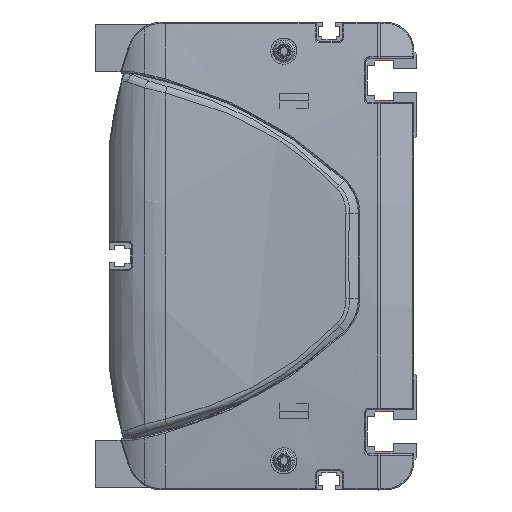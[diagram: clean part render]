
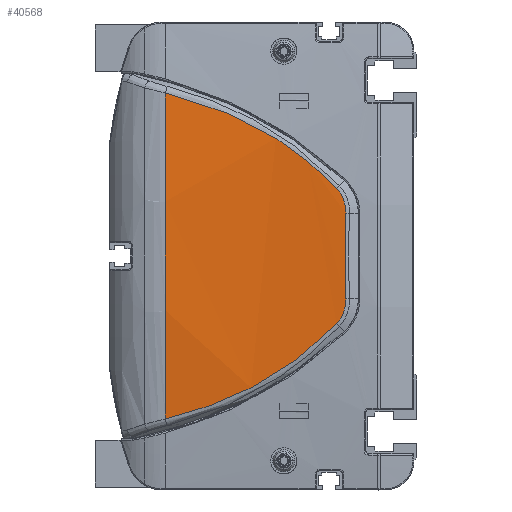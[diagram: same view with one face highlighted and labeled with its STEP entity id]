
A CAD part, left-side view. The second image highlights one B-rep face of the part: STEP entity #40568.
In plain terms, the highlighted cylindrical face has radius 600 mm (diameter 1200 mm), a partial arc.
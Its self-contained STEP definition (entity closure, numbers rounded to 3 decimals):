
#35399=CARTESIAN_POINT('',(-12.406,86.,
55.736));
#35400=CARTESIAN_POINT('',(-12.529,80.495,
54.41));
#35401=CARTESIAN_POINT('',(-12.828,69.636,
51.114));
#35402=CARTESIAN_POINT('',(-13.389,54.079,
44.179));
#35403=CARTESIAN_POINT('',(-14.01,39.709,
34.979));
#35404=CARTESIAN_POINT('',(-14.395,31.353,
27.243));
#35405=CARTESIAN_POINT('',(-14.555,27.451,
23.113));
#35407=CARTESIAN_POINT('',(-14.555,27.451,
23.113));
#35408=CARTESIAN_POINT('',(-14.598,26.394,
21.994));
#35409=CARTESIAN_POINT('',(-14.695,24.746,
19.315));
#35410=CARTESIAN_POINT('',(-14.783,24.276,
16.208));
#35411=CARTESIAN_POINT('',(-14.821,24.351,
14.67));
#35413=CARTESIAN_POINT('',(-14.821,24.351,
14.67));
#35414=CARTESIAN_POINT('',(-14.9,24.51,
11.413));
#35415=CARTESIAN_POINT('',(-15.007,24.721,
4.895));
#35416=CARTESIAN_POINT('',(-15.007,24.721,
-4.895));
#35417=CARTESIAN_POINT('',(-14.9,24.51,
-11.413));
#35418=CARTESIAN_POINT('',(-14.821,24.351,
-14.67));
#35420=CARTESIAN_POINT('',(-14.821,24.351,
-14.67));
#35421=CARTESIAN_POINT('',(-14.783,24.276,
-16.208));
#35422=CARTESIAN_POINT('',(-14.695,24.746,
-19.315));
#35423=CARTESIAN_POINT('',(-14.598,26.394,
-21.995));
#35424=CARTESIAN_POINT('',(-14.555,27.451,
-23.113));
#35426=CARTESIAN_POINT('',(-14.555,27.451,
-23.113));
#35427=CARTESIAN_POINT('',(-14.395,31.353,
-27.243));
#35428=CARTESIAN_POINT('',(-14.01,39.709,
-34.979));
#35429=CARTESIAN_POINT('',(-13.389,54.079,
-44.179));
#35430=CARTESIAN_POINT('',(-12.828,69.636,
-51.114));
#35431=CARTESIAN_POINT('',(-12.529,80.495,
-54.41));
#35432=CARTESIAN_POINT('',(-12.406,86.,
-55.736));
#35434=CARTESIAN_POINT('',(585.,86.,0.));
#35435=DIRECTION('',(0.,1.,0.));
#35436=DIRECTION('',(-0.996,0.,-0.093));
#35437=AXIS2_PLACEMENT_3D('',#35434,#35435,#35436);
#35450=CARTESIAN_POINT('',(-12.406,86.,
55.736));
#35974=VERTEX_POINT('',#35450);
#35975=CARTESIAN_POINT('',(-12.406,86.,
-55.736));
#35976=VERTEX_POINT('',#35975);
#36028=VERTEX_POINT('',#35405);
#36029=VERTEX_POINT('',#35411);
#36030=VERTEX_POINT('',#35418);
#36031=VERTEX_POINT('',#35424);
#40550=CARTESIAN_POINT('',(585.,87.45,0.));
#40551=DIRECTION('',(0.,-1.,0.));
#40552=DIRECTION('',(0.,0.,-1.));
#40553=AXIS2_PLACEMENT_3D('',#40550,#40551,#40552);
#40554=CYLINDRICAL_SURFACE('',#40553,600.);
#40556=ORIENTED_EDGE('',*,*,#40555,.T.);
#40558=ORIENTED_EDGE('',*,*,#40557,.T.);
#40559=ORIENTED_EDGE('',*,*,#40540,.T.);
#40561=ORIENTED_EDGE('',*,*,#40560,.T.);
#40563=ORIENTED_EDGE('',*,*,#40562,.T.);
#40565=ORIENTED_EDGE('',*,*,#40564,.T.);
#40566=EDGE_LOOP('',(#40556,#40558,#40559,#40561,#40563,#40565));
#40567=FACE_OUTER_BOUND('',#40566,.F.);
#40568=ADVANCED_FACE('',(#40567),#40554,.T.);
#35406=B_SPLINE_CURVE_WITH_KNOTS('',3,(#35399,#35400,#35401,#35402,#35403,
#35404,#35405),.UNSPECIFIED.,.F.,.F.,(4,1,1,1,4),(0.,0.25,0.5,0.75,
1.),.UNSPECIFIED.);
#35412=B_SPLINE_CURVE_WITH_KNOTS('',3,(#35407,#35408,#35409,#35410,#35411),
.UNSPECIFIED.,.F.,.F.,(4,1,4),(0.,0.5,1.),.UNSPECIFIED.);
#35419=B_SPLINE_CURVE_WITH_KNOTS('',3,(#35413,#35414,#35415,#35416,#35417,
#35418),.UNSPECIFIED.,.F.,.F.,(4,1,1,4),(0.,0.333,
0.667,1.),.UNSPECIFIED.);
#35425=B_SPLINE_CURVE_WITH_KNOTS('',3,(#35420,#35421,#35422,#35423,#35424),
.UNSPECIFIED.,.F.,.F.,(4,1,4),(0.,0.5,1.),.UNSPECIFIED.);
#35433=B_SPLINE_CURVE_WITH_KNOTS('',3,(#35426,#35427,#35428,#35429,#35430,
#35431,#35432),.UNSPECIFIED.,.F.,.F.,(4,1,1,1,4),(0.,0.25,0.5,0.75,
1.),.UNSPECIFIED.);
#35438=CIRCLE('',#35437,600.);
#40540=EDGE_CURVE('',#36029,#36030,#35419,.T.);
#40555=EDGE_CURVE('',#35974,#36028,#35406,.T.);
#40557=EDGE_CURVE('',#36028,#36029,#35412,.T.);
#40560=EDGE_CURVE('',#36030,#36031,#35425,.T.);
#40562=EDGE_CURVE('',#36031,#35976,#35433,.T.);
#40564=EDGE_CURVE('',#35976,#35974,#35438,.T.);
